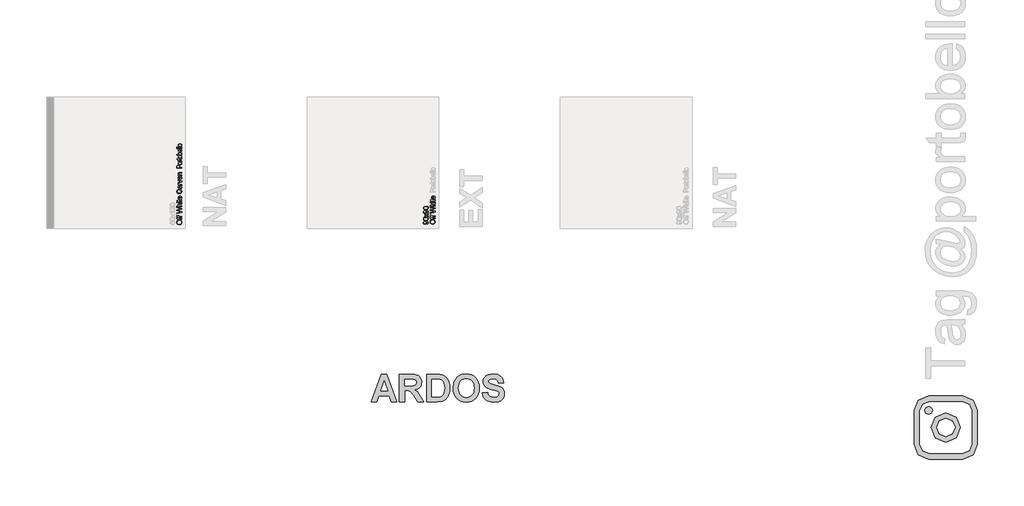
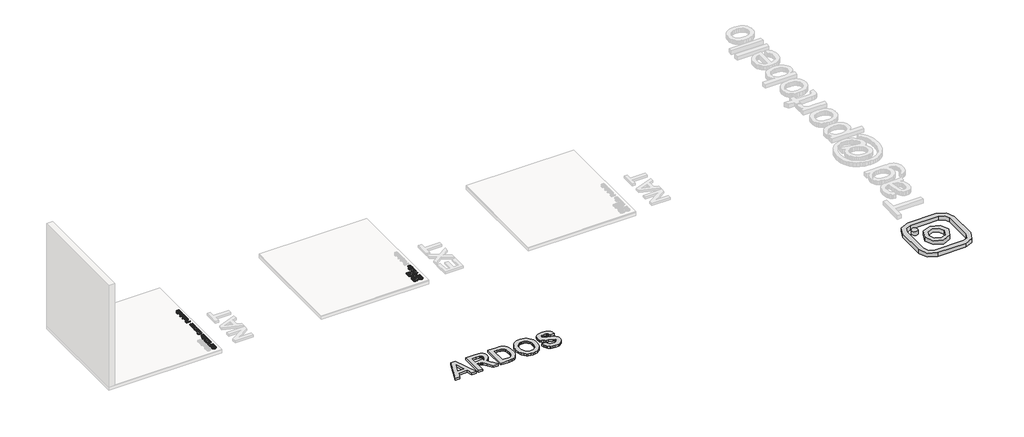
# One storey, part 2 of 12: 6 proxies.
"""IFC4 building model written with IfcOpenShell, lengths in millimetres."""

from ifc_helpers import new_model, si_unit, frame, origin, origin_with_axes, place, context, project, spatial, polyline, outline, extrude, transform, mapped, element, save
from components import generic_models_d67f6705

model = new_model("IFC4")

# Units and contexts
model_context = context("Model", 3, world=origin())
ifc_project = project(units=[si_unit("LENGTHUNIT", "METRE", prefix="MILLI")], contexts=[model_context])

# Site, building, storey
site = spatial("IfcSite", under=ifc_project)
building = spatial("IfcBuilding", under=site)
storey = spatial("IfcBuildingStorey", under=building, Name="PORTOBELLO - SHOWROOM", Elevation=0.0)

# Proxies
placement = place(None, origin())
generic_models_shape = generic_models_d67f6705(model_context)
element("IfcBuildingElementProxy", 1, Name="Blks_Instagram1 : Único", ObjectType="Blks_Instagram1 : Único", at=placement, inside=storey, context=model_context, shape_type="MappedRepresentation", body=[
    mapped(generic_models_shape, transform((-400.4764951, -12631.2406298, 0.0), x_axis=(-1.0, 0.0, 0.0), y_axis=(0.0, -1.0, 0.0), z_axis=(0.0, 0.0, 1.0))),
])
element("IfcBuildingElementProxy", 2, Name="10mm Arial", ObjectType="10mm Arial", at=placement, inside=storey, context=model_context, shape_type="SweptSolid", body=[
    extrude(outline(polyline([(-10933.4831679, -8456.0975392), (-10955.6971091, -8452.749813), (-10972.5031849, -8442.7066346), (-10983.0797922, -8427.3720867), (-10986.605328, -8408.1502525), (-10984.9498591, -8394.9739457), (-10979.9834521, -8383.1588023), (-10972.0555951, -8373.3486157), (-10961.515776, -8366.1871796), (-10948.8728981, -8361.8093838), (-10934.6358649, -8360.3501186), (-10920.2087593, -8361.8860259), (-10907.3880717, -8366.4937479), (-10896.8298585, -8373.9188328), (-10889.1901757, -8383.906829), (-10884.5548626, -8395.6208049), (-10883.0097582, -8408.2238289), (-10884.7173438, -8421.6024708), (-10889.8401006, -8433.4850592), (-10897.9151104, -8443.2707203), (-10908.479455, -8450.3585801), (-10933.4831679, -8456.0975392)]), holes=[polyline([(-10933.3605406, -8443.5405004), (-10917.645848, -8441.0297058), (-10905.6712891, -8433.497322), (-10898.09292, -8422.1757536), (-10895.566797, -8408.2974053), (-10898.1174455, -8394.2167219), (-10905.769391, -8382.8767594), (-10918.1118319, -8375.3995579), (-10934.7339667, -8372.9071573), (-10955.4579858, -8377.1745885), (-10969.1799842, -8389.6457881), (-10974.0482893, -8408.0766761), (-10971.7030415, -8421.5840767), (-10964.6672984, -8433.0681263), (-10952.1501135, -8440.9224069), (-10933.3605406, -8443.5405004)])]), frame((0.0, 0.0, 18.0), z_axis=(0.0, 0.0, 1.0), x_axis=(1.0, 0.0, 0.0)), (0.0, 0.0, 1.0), 20.0),
    extrude(outline(polyline([(-10884.579388, -8300.7041844), (-10945.794952, -8300.7041844), (-10945.794952, -8311.6915934), (-10958.3519908, -8311.6915934), (-10958.3519908, -8300.7041844), (-10965.7832071, -8300.7041844), (-10976.2555812, -8299.3798092), (-10983.7358485, -8292.9541371), (-10986.605328, -8280.2989964), (-10985.2319019, -8268.8456036), (-10973.4596781, -8270.6850136), (-10974.0482893, -8277.9200262), (-10971.9636246, -8285.8294891), (-10964.1890518, -8288.1471457), (-10958.3519908, -8288.1471457), (-10958.3519908, -8274.020477), (-10945.794952, -8274.020477), (-10945.794952, -8288.1471457), (-10884.579388, -8288.1471457), (-10884.579388, -8300.7041844)])), frame((0.0, 0.0, 18.0), z_axis=(0.0, 0.0, 1.0), x_axis=(1.0, 0.0, 0.0)), (0.0, 0.0, 1.0), 20.0),
    extrude(outline(polyline([(-10884.579388, -8341.5145604), (-10945.794952, -8341.5145604), (-10945.794952, -8352.5019693), (-10958.3519908, -8352.5019693), (-10958.3519908, -8341.5145604), (-10965.7832071, -8341.5145604), (-10976.2555812, -8340.1901852), (-10983.7358485, -8333.7645131), (-10986.605328, -8321.1093724), (-10985.2319019, -8309.6559796), (-10973.4596781, -8311.4953896), (-10974.0482893, -8318.7304022), (-10971.9636246, -8326.6398651), (-10964.1890518, -8328.9575217), (-10958.3519908, -8328.9575217), (-10958.3519908, -8314.830853), (-10945.794952, -8314.830853), (-10945.794952, -8328.9575217), (-10884.579388, -8328.9575217), (-10884.579388, -8341.5145604)])), frame((0.0, 0.0, 18.0), z_axis=(0.0, 0.0, 1.0), x_axis=(1.0, 0.0, 0.0)), (0.0, 0.0, 1.0), 20.0),
    extrude(outline(polyline([(-10884.579388, -8204.2455253), (-10985.0356982, -8231.6404712), (-10985.0356982, -8218.691025), (-10919.0131428, -8202.7985228), (-10898.6324803, -8197.8934295), (-10916.658698, -8192.6449797), (-10985.0356982, -8172.730301), (-10985.0356982, -8154.0664212), (-10935.4697307, -8139.596396), (-10898.6324803, -8128.8297163), (-10918.4245316, -8124.0717758), (-10985.0356982, -8108.0566463), (-10985.0356982, -8095.0826746), (-10884.579388, -8122.453095), (-10884.579388, -8135.8930506), (-10962.0798617, -8160.001584), (-10972.8955923, -8163.3615729), (-10959.8725697, -8167.1384947), (-10884.579388, -8189.0887871), (-10884.579388, -8204.2455253)])), frame((0.0, 0.0, 18.0), z_axis=(0.0, 0.0, 1.0), x_axis=(1.0, 0.0, 0.0)), (0.0, 0.0, 1.0), 20.0),
    extrude(outline(polyline([(-10884.579388, -8084.0952657), (-10985.0356982, -8084.0952657), (-10985.0356982, -8071.5382269), (-10948.1003459, -8071.5382269), (-10956.966302, -8061.7464345), (-10959.9216207, -8049.6860364), (-10956.6965218, -8035.5838932), (-10947.7815148, -8027.0245055), (-10931.275876, -8024.4493315), (-10884.579388, -8024.4493315), (-10884.579388, -8037.0063703), (-10929.9760262, -8037.0063703), (-10943.2197781, -8041.0040213), (-10947.3645819, -8052.3347868), (-10944.5686787, -8062.6232199), (-10936.9903096, -8069.4903505), (-10923.7710833, -8071.5382269), (-10884.579388, -8071.5382269), (-10884.579388, -8084.0952657)])), frame((0.0, 0.0, 18.0), z_axis=(0.0, 0.0, 1.0), x_axis=(1.0, 0.0, 0.0)), (0.0, 0.0, 1.0), 20.0),
    extrude(outline(polyline([(-10972.4786594, -8007.1834032), (-10985.0356982, -8007.1834032), (-10985.0356982, -7994.6263644), (-10972.4786594, -7994.6263644), (-10972.4786594, -8007.1834032)])), frame((0.0, 0.0, 18.0), z_axis=(0.0, 0.0, 1.0), x_axis=(1.0, 0.0, 0.0)), (0.0, 0.0, 1.0), 20.0),
    extrude(outline(polyline([(-10884.579388, -8007.1834032), (-10958.3519908, -8007.1834032), (-10958.3519908, -7994.6263644), (-10884.579388, -7994.6263644), (-10884.579388, -8007.1834032)])), frame((0.0, 0.0, 18.0), z_axis=(0.0, 0.0, 1.0), x_axis=(1.0, 0.0, 0.0)), (0.0, 0.0, 1.0), 20.0),
    extrude(outline(polyline([(-10895.0517622, -7949.1070989), (-10884.211506, -7947.5374691), (-10883.0097582, -7956.9307227), (-10885.0944228, -7967.4521477), (-10890.5636018, -7972.7005975), (-10904.8128978, -7974.2211764), (-10945.794952, -7974.2211764), (-10945.794952, -7983.6389555), (-10958.3519908, -7983.6389555), (-10958.3519908, -7974.2211764), (-10976.2801067, -7974.2211764), (-10983.6622721, -7961.6641377), (-10958.3519908, -7961.6641377), (-10958.3519908, -7949.1070989), (-10945.794952, -7949.1070989), (-10945.794952, -7961.6641377), (-10905.1807798, -7961.6641377), (-10898.7060567, -7961.0019501), (-10896.4129256, -7958.8559718), (-10895.566797, -7954.5762779), (-10895.0517622, -7949.1070989)])), frame((0.0, 0.0, 18.0), z_axis=(0.0, 0.0, 1.0), x_axis=(1.0, 0.0, 0.0)), (0.0, 0.0, 1.0), 20.0),
    extrude(outline(polyline([(-10906.5542059, -7884.899428), (-10904.984576, -7872.5876439), (-10895.7078184, -7877.0236876), (-10888.7732428, -7884.1023504), (-10884.4506293, -7893.6642165), (-10883.0097582, -7905.5498707), (-10885.4960273, -7920.2835446), (-10892.9548348, -7931.6204414), (-10904.9018026, -7938.8493226), (-10920.8525528, -7941.2589497), (-10937.3397975, -7938.8247971), (-10949.6699757, -7931.5223395), (-10957.3587094, -7920.3387269), (-10959.9216207, -7906.2611092), (-10957.3648408, -7892.6218842), (-10949.6945012, -7881.7233801), (-10937.3888484, -7874.5772724), (-10920.9261292, -7872.1952364), (-10917.5416148, -7872.2688128), (-10917.5416148, -7928.7019109), (-10908.1422298, -7926.5283415), (-10901.2321797, -7921.4791611), (-10896.9831426, -7914.1920319), (-10895.566797, -7905.304616), (-10898.1910219, -7892.9928319), (-10906.5542059, -7884.899428)]), holes=[polyline([(-10930.0986536, -7928.7019109), (-10930.0986536, -7884.7522752), (-10941.47847, -7889.7799958), (-10945.8930539, -7897.1008475), (-10947.3645819, -7906.3101601), (-10942.6679551, -7921.7734667), (-10937.1773163, -7926.638706), (-10930.0986536, -7928.7019109)])]), frame((0.0, 0.0, 18.0), z_axis=(0.0, 0.0, 1.0), x_axis=(1.0, 0.0, 0.0)), (0.0, 0.0, 1.0), 20.0),
])
element("IfcBuildingElementProxy", 3, Name="10mm Arial", ObjectType="10mm Arial", at=placement, inside=storey, context=model_context, shape_type="SweptSolid", body=[
    extrude(outline(polyline([(-11049.6934656, -8454.5279093), (-11051.2630954, -8441.9708706), (-11039.2824051, -8436.3300133), (-11035.566797, -8425.63691), (-11037.9580299, -8415.4711042), (-11044.3469139, -8408.5794481), (-11055.2607464, -8404.4714325), (-11069.8288734, -8402.656548), (-11072.2814201, -8402.7301244), (-11062.7655391, -8412.7733029), (-11059.1112447, -8426.5443522), (-11061.3430621, -8437.9946793), (-11068.0385144, -8447.5258887), (-11078.3821298, -8453.9546266), (-11091.5584366, -8456.0975392), (-11105.1700705, -8453.8503933), (-11115.8386483, -8447.1089558), (-11122.7364357, -8436.9830039), (-11125.0356982, -8424.5823149), (-11119.7872484, -8406.6909872), (-11104.8267139, -8394.3792031), (-11076.7205295, -8390.1730857), (-11046.2231121, -8394.3669404), (-11036.2320502, -8399.5816677), (-11028.944921, -8406.83814), (-11024.4935489, -8415.8236578), (-11023.0097582, -8426.2255212), (-11024.7602634, -8436.9615441), (-11030.0117788, -8445.5270632), (-11038.4332108, -8451.5174084), (-11049.6934656, -8454.5279093)]), holes=[polyline([(-11091.8527422, -8402.7301244), (-11100.363079, -8404.0851564), (-11106.9113786, -8408.1502525), (-11111.0868392, -8414.4594287), (-11112.4786594, -8422.5467012), (-11110.9795403, -8430.9344107), (-11106.4821829, -8437.6543885), (-11099.5997239, -8442.0689724), (-11090.9453, -8443.5405004), (-11083.1860556, -8442.1486802), (-11077.0270978, -8437.9732196), (-11073.007987, -8431.4187887), (-11071.6682834, -8422.8900578), (-11077.0270978, -8408.4077699), (-11083.4129161, -8404.1495358), (-11091.8527422, -8402.7301244)])]), frame((0.0, 0.0, 18.0), z_axis=(0.0, 0.0, 1.0), x_axis=(1.0, 0.0, 0.0)), (0.0, 0.0, 1.0), 20.0),
    extrude(outline(polyline([(-11073.9982027, -8379.1856767), (-11102.9014648, -8375.494594), (-11119.5665192, -8364.5317106), (-11125.0356982, -8346.22345), (-11121.7983366, -8331.5572211), (-11112.4663967, -8321.4282035), (-11097.6039641, -8315.5420916), (-11073.9982027, -8313.2612232), (-11045.217568, -8316.9155177), (-11028.5157254, -8327.8416129), (-11024.38625, -8336.0729726), (-11023.0097582, -8346.22345), (-11025.4009912, -8359.2709981), (-11032.5746901, -8369.1792865), (-11049.5647069, -8376.6840792), (-11073.9982027, -8379.1856767)]), holes=[polyline([(-11074.0227282, -8366.628638), (-11054.2705307, -8365.15711), (-11042.8385977, -8360.742526), (-11037.3847472, -8354.1697011), (-11035.566797, -8346.22345), (-11037.3908785, -8338.2771989), (-11042.8631232, -8331.7043739), (-11054.3011876, -8327.2897899), (-11074.0227282, -8325.818262), (-11093.3304016, -8327.240739), (-11104.8512394, -8331.5081702), (-11110.5718044, -8338.0687324), (-11112.4786594, -8346.3706028), (-11110.798665, -8354.2310147), (-11105.7586816, -8360.5463223), (-11093.5204739, -8365.1080591), (-11074.0227282, -8366.628638)])]), frame((0.0, 0.0, 18.0), z_axis=(0.0, 0.0, 1.0), x_axis=(1.0, 0.0, 0.0)), (0.0, 0.0, 1.0), 20.0),
    extrude(outline(polyline([(-11024.579388, -8306.9827038), (-11061.6864186, -8280.1518436), (-11098.3519908, -8305.413074), (-11098.3519908, -8290.3544376), (-11080.6691296, -8278.1652809), (-11072.3549965, -8272.4508472), (-11079.1730761, -8267.496703), (-11098.3519908, -8253.615289), (-11098.3519908, -8238.5076018), (-11061.6618932, -8265.0441564), (-11024.579388, -8239.4886204), (-11024.579388, -8254.5717822), (-11046.8975624, -8269.9737751), (-11050.9933153, -8272.7696783), (-11024.579388, -8291.8750165), (-11024.579388, -8306.9827038)])), frame((0.0, 0.0, 18.0), z_axis=(0.0, 0.0, 1.0), x_axis=(1.0, 0.0, 0.0)), (0.0, 0.0, 1.0), 20.0),
    extrude(outline(polyline([(-11049.6934656, -8230.0708414), (-11051.2630954, -8217.5138026), (-11039.2824051, -8211.8729453), (-11035.566797, -8201.179842), (-11037.9580299, -8191.0140362), (-11044.3469139, -8184.1223802), (-11055.2607464, -8180.0143645), (-11069.8288734, -8178.19948), (-11072.2814201, -8178.2730564), (-11062.7655391, -8188.3162349), (-11059.1112447, -8202.0872843), (-11061.3430621, -8213.5376114), (-11068.0385144, -8223.0688207), (-11078.3821298, -8229.4975586), (-11091.5584366, -8231.6404712), (-11105.1700705, -8229.3933253), (-11115.8386483, -8222.6518878), (-11122.7364357, -8212.5259359), (-11125.0356982, -8200.1252469), (-11119.7872484, -8182.2339192), (-11104.8267139, -8169.9221351), (-11076.7205295, -8165.7160177), (-11046.2231121, -8169.9098724), (-11036.2320502, -8175.1245997), (-11028.944921, -8182.381072), (-11024.4935489, -8191.3665898), (-11023.0097582, -8201.7684532), (-11024.7602634, -8212.5044761), (-11030.0117788, -8221.0699952), (-11038.4332108, -8227.0603404), (-11049.6934656, -8230.0708414)]), holes=[polyline([(-11091.8527422, -8178.2730564), (-11100.363079, -8179.6280884), (-11106.9113786, -8183.6931845), (-11111.0868392, -8190.0023607), (-11112.4786594, -8198.0896332), (-11110.9795403, -8206.4773427), (-11106.4821829, -8213.1973205), (-11099.5997239, -8217.6119045), (-11090.9453, -8219.0834324), (-11083.1860556, -8217.6916122), (-11077.0270978, -8213.5161516), (-11073.007987, -8206.9617207), (-11071.6682834, -8198.4329898), (-11077.0270978, -8183.9507019), (-11083.4129161, -8179.6924678), (-11091.8527422, -8178.2730564)])]), frame((0.0, 0.0, 18.0), z_axis=(0.0, 0.0, 1.0), x_axis=(1.0, 0.0, 0.0)), (0.0, 0.0, 1.0), 20.0),
    extrude(outline(polyline([(-11073.9982027, -8154.7286087), (-11102.9014648, -8151.0375261), (-11119.5665192, -8140.0746426), (-11125.0356982, -8121.766382), (-11121.7983366, -8107.1001531), (-11112.4663967, -8096.9711355), (-11097.6039641, -8091.0850236), (-11073.9982027, -8088.8041552), (-11045.217568, -8092.4584497), (-11028.5157254, -8103.3845449), (-11024.38625, -8111.6159046), (-11023.0097582, -8121.766382), (-11025.4009912, -8134.8139301), (-11032.5746901, -8144.7222185), (-11049.5647069, -8152.2270112), (-11073.9982027, -8154.7286087)]), holes=[polyline([(-11074.0227282, -8142.17157), (-11054.2705307, -8140.700042), (-11042.8385977, -8136.2854581), (-11037.3847472, -8129.7126331), (-11035.566797, -8121.766382), (-11037.3908785, -8113.8201309), (-11042.8631232, -8107.2473059), (-11054.3011876, -8102.832722), (-11074.0227282, -8101.361194), (-11093.3304016, -8102.783671), (-11104.8512394, -8107.0511022), (-11110.5718044, -8113.6116644), (-11112.4786594, -8121.9135348), (-11110.798665, -8129.7739467), (-11105.7586816, -8136.0892543), (-11093.5204739, -8140.6509911), (-11074.0227282, -8142.17157)])]), frame((0.0, 0.0, 18.0), z_axis=(0.0, 0.0, 1.0), x_axis=(1.0, 0.0, 0.0)), (0.0, 0.0, 1.0), 20.0),
])
element("IfcBuildingElementProxy", 4, Name="10mm Arial", ObjectType="10mm Arial", at=placement, inside=storey, context=model_context, shape_type="SweptSolid", body=[
    extrude(outline(polyline([(-16134.5237265, -8462.0790039), (-16156.7376676, -8458.7312777), (-16173.5437435, -8448.6880993), (-16184.1203508, -8433.3535514), (-16187.6458866, -8414.1317172), (-16185.9904176, -8400.9554104), (-16181.0240107, -8389.140267), (-16173.0961537, -8379.3300804), (-16162.5563345, -8372.1686443), (-16149.9134566, -8367.7908485), (-16135.6764234, -8366.3315833), (-16121.2493178, -8367.8674906), (-16108.4286303, -8372.4752126), (-16097.8704171, -8379.9002975), (-16090.2307343, -8389.8882937), (-16085.5954211, -8401.6022696), (-16084.0503168, -8414.2052936), (-16085.7579024, -8427.5839355), (-16090.8806591, -8439.4665239), (-16098.9556689, -8449.252185), (-16109.5200136, -8456.3400448), (-16134.5237265, -8462.0790039)]), holes=[polyline([(-16134.4010992, -8449.5219651), (-16118.6864066, -8447.0111705), (-16106.7118477, -8439.4787867), (-16099.1334786, -8428.1572183), (-16096.6073555, -8414.27887), (-16099.158004, -8400.1981866), (-16106.8099495, -8388.8582241), (-16119.1523905, -8381.3810226), (-16135.7745253, -8378.8886221), (-16156.4985444, -8383.1560532), (-16170.2205428, -8395.6272528), (-16175.0888478, -8414.0581408), (-16172.7436001, -8427.5655414), (-16165.707857, -8439.049591), (-16153.1906721, -8446.9038716), (-16134.4010992, -8449.5219651)])]), origin_with_axes(), (0.0, 0.0, 1.0), 20.0),
    extrude(outline(polyline([(-16085.6199466, -8306.6856491), (-16146.8355106, -8306.6856491), (-16146.8355106, -8317.6730581), (-16159.3925494, -8317.6730581), (-16159.3925494, -8306.6856491), (-16166.8237657, -8306.6856491), (-16177.2961398, -8305.3612739), (-16184.776407, -8298.9356018), (-16187.6458866, -8286.2804611), (-16186.2724605, -8274.8270683), (-16174.5002366, -8276.6664783), (-16175.0888478, -8283.9014909), (-16173.0041832, -8291.8109538), (-16165.2296104, -8294.1286104), (-16159.3925494, -8294.1286104), (-16159.3925494, -8280.0019417), (-16146.8355106, -8280.0019417), (-16146.8355106, -8294.1286104), (-16085.6199466, -8294.1286104), (-16085.6199466, -8306.6856491)])), origin_with_axes(), (0.0, 0.0, 1.0), 20.0),
    extrude(outline(polyline([(-16085.6199466, -8347.4960251), (-16146.8355106, -8347.4960251), (-16146.8355106, -8358.4834341), (-16159.3925494, -8358.4834341), (-16159.3925494, -8347.4960251), (-16166.8237657, -8347.4960251), (-16177.2961398, -8346.1716499), (-16184.776407, -8339.7459778), (-16187.6458866, -8327.0908371), (-16186.2724605, -8315.6374443), (-16174.5002366, -8317.4768543), (-16175.0888478, -8324.7118669), (-16173.0041832, -8332.6213298), (-16165.2296104, -8334.9389864), (-16159.3925494, -8334.9389864), (-16159.3925494, -8320.8123177), (-16146.8355106, -8320.8123177), (-16146.8355106, -8334.9389864), (-16085.6199466, -8334.9389864), (-16085.6199466, -8347.4960251)])), origin_with_axes(), (0.0, 0.0, 1.0), 20.0),
    extrude(outline(polyline([(-16085.6199466, -8210.22699), (-16186.0762568, -8237.6219359), (-16186.0762568, -8224.6724897), (-16120.0537014, -8208.7799875), (-16099.6730388, -8203.8748942), (-16117.6992566, -8198.6264444), (-16186.0762568, -8178.7117657), (-16186.0762568, -8160.0478859), (-16136.5102893, -8145.5778607), (-16099.6730388, -8134.811181), (-16119.4650902, -8130.0532405), (-16186.0762568, -8114.038111), (-16186.0762568, -8101.0641393), (-16085.6199466, -8128.4345597), (-16085.6199466, -8141.8745153), (-16163.1204203, -8165.9830487), (-16173.9361509, -8169.3430376), (-16160.9131283, -8173.1199594), (-16085.6199466, -8195.0702518), (-16085.6199466, -8210.22699)])), origin_with_axes(), (0.0, 0.0, 1.0), 20.0),
    extrude(outline(polyline([(-16085.6199466, -8090.0767304), (-16186.0762568, -8090.0767304), (-16186.0762568, -8077.5196916), (-16149.1409044, -8077.5196916), (-16158.0068605, -8067.7278992), (-16160.9621792, -8055.6675011), (-16157.7370804, -8041.5653579), (-16148.8220734, -8033.0059702), (-16132.3164345, -8030.4307962), (-16085.6199466, -8030.4307962), (-16085.6199466, -8042.987835), (-16131.0165848, -8042.987835), (-16144.2603366, -8046.985486), (-16148.4051405, -8058.3162515), (-16145.6092373, -8068.6046846), (-16138.0308682, -8075.4718152), (-16124.8116418, -8077.5196916), (-16085.6199466, -8077.5196916), (-16085.6199466, -8090.0767304)])), origin_with_axes(), (0.0, 0.0, 1.0), 20.0),
    extrude(outline(polyline([(-16173.519218, -8013.1648679), (-16186.0762568, -8013.1648679), (-16186.0762568, -8000.6078291), (-16173.519218, -8000.6078291), (-16173.519218, -8013.1648679)])), origin_with_axes(), (0.0, 0.0, 1.0), 20.0),
    extrude(outline(polyline([(-16085.6199466, -8013.1648679), (-16159.3925494, -8013.1648679), (-16159.3925494, -8000.6078291), (-16085.6199466, -8000.6078291), (-16085.6199466, -8013.1648679)])), origin_with_axes(), (0.0, 0.0, 1.0), 20.0),
    extrude(outline(polyline([(-16096.0923207, -7955.0885636), (-16085.2520646, -7953.5189338), (-16084.0503168, -7962.9121874), (-16086.1349814, -7973.4336124), (-16091.6041604, -7978.6820622), (-16105.8534563, -7980.2026411), (-16146.8355106, -7980.2026411), (-16146.8355106, -7989.6204202), (-16159.3925494, -7989.6204202), (-16159.3925494, -7980.2026411), (-16177.3206653, -7980.2026411), (-16184.7028306, -7967.6456024), (-16159.3925494, -7967.6456024), (-16159.3925494, -7955.0885636), (-16146.8355106, -7955.0885636), (-16146.8355106, -7967.6456024), (-16106.2213383, -7967.6456024), (-16099.7466152, -7966.9834148), (-16097.4534841, -7964.8374365), (-16096.6073555, -7960.5577426), (-16096.0923207, -7955.0885636)])), origin_with_axes(), (0.0, 0.0, 1.0), 20.0),
    extrude(outline(polyline([(-16107.5947645, -7890.8808927), (-16106.0251346, -7878.5691086), (-16096.748377, -7883.0051523), (-16089.8138014, -7890.0838151), (-16085.4911879, -7899.6456813), (-16084.0503168, -7911.5313354), (-16086.5365859, -7926.2650093), (-16093.9953934, -7937.6019061), (-16105.9423612, -7944.8307873), (-16121.8931113, -7947.2404144), (-16138.3803561, -7944.8062618), (-16150.7105343, -7937.5038042), (-16158.399268, -7926.3201916), (-16160.9621792, -7912.2425739), (-16158.4053994, -7898.6033489), (-16150.7350598, -7887.7048448), (-16138.429407, -7880.5587371), (-16121.9666877, -7878.1767011), (-16118.5821734, -7878.2502775), (-16118.5821734, -7934.6833756), (-16109.1827884, -7932.5098062), (-16102.2727383, -7927.4606258), (-16098.0237012, -7920.1734966), (-16096.6073555, -7911.2860807), (-16099.2315804, -7898.9742966), (-16107.5947645, -7890.8808927)]), holes=[polyline([(-16131.1392121, -7934.6833756), (-16131.1392121, -7890.7337399), (-16142.5190285, -7895.7614605), (-16146.9336125, -7903.0823122), (-16148.4051405, -7912.2916248), (-16143.7085137, -7927.7549314), (-16138.2178749, -7932.6201708), (-16131.1392121, -7934.6833756)])]), origin_with_axes(), (0.0, 0.0, 1.0), 20.0),
    extrude(outline(polyline([(-16121.3290256, -7754.1759433), (-16118.0916641, -7741.6189045), (-16103.4591577, -7747.413046), (-16092.7691201, -7756.5058626), (-16086.2300176, -7768.4497647), (-16084.0503168, -7782.7971625), (-16085.6996544, -7797.3622239), (-16090.6476672, -7808.9290469), (-16098.722677, -7817.795003), (-16109.7530055, -7824.2574634), (-16136.6083911, -7829.5181759), (-16151.2562259, -7828.0313195), (-16163.9052352, -7823.5707503), (-16174.1538144, -7816.3694603), (-16181.6003592, -7806.6604413), (-16186.1345047, -7795.1457348), (-16187.6458866, -7782.5273824), (-16185.6899807, -7768.7593987), (-16179.8222628, -7757.3765167), (-16170.4044838, -7748.7343555), (-16157.7983941, -7743.1885344), (-16154.8062872, -7755.7455732), (-16170.2450682, -7766.046269), (-16175.0888478, -7783.0178917), (-16169.7177707, -7802.6627903), (-16155.2967965, -7813.7605638), (-16136.6329166, -7816.9611372), (-16115.0014553, -7813.1719526), (-16101.181355, -7801.3752033), (-16096.6073555, -7784.0479613), (-16098.1647226, -7773.5663901), (-16102.836824, -7764.8322584), (-16110.5746086, -7758.2379737), (-16121.3290256, -7754.1759433)])), origin_with_axes(), (0.0, 0.0, 1.0), 20.0),
    extrude(outline(polyline([(-16095.0377257, -7678.8337107), (-16086.5273889, -7691.0106047), (-16084.0503168, -7704.462823), (-16085.5402388, -7714.9566569), (-16090.0100051, -7722.6975073), (-16096.7974279, -7727.4707761), (-16105.2403197, -7729.0618658), (-16115.1731336, -7726.6583701), (-16122.3836207, -7720.3430625), (-16126.503899, -7711.5506828), (-16128.3923599, -7700.6859012), (-16132.708842, -7678.9072871), (-16135.5047452, -7678.8337107), (-16144.7753714, -7682.2918015), (-16148.4051405, -7696.1732154), (-16145.989382, -7708.877407), (-16137.4177315, -7714.9351972), (-16138.9873614, -7727.4922359), (-16151.2500946, -7722.0598451), (-16158.4360562, -7711.1214871), (-16160.9621792, -7694.5545346), (-16158.7303618, -7679.3364828), (-16153.1262927, -7670.7403068), (-16144.6036932, -7666.8898086), (-16133.6162843, -7666.2766719), (-16117.9935622, -7666.2766719), (-16096.1781599, -7665.6390098), (-16085.6199466, -7663.1374122), (-16085.6199466, -7675.694451), (-16095.0377257, -7678.8337107)]), holes=[polyline([(-16120.1518032, -7678.8337107), (-16116.301305, -7699.0917459), (-16114.2656913, -7709.8952138), (-16110.9547533, -7714.7880444), (-16106.1232365, -7716.504827), (-16099.3296823, -7712.7646934), (-16096.6073555, -7701.7895472), (-16099.6117252, -7689.0853556), (-16106.8835259, -7680.8938499), (-16116.5956106, -7678.9072871), (-16120.1518032, -7678.8337107)])]), origin_with_axes(), (0.0, 0.0, 1.0), 20.0),
    extrude(outline(polyline([(-16085.6199466, -7583.7730031), (-16159.3925494, -7609.7699975), (-16159.3925494, -7596.5017202), (-16115.197659, -7580.7563708), (-16100.3352264, -7576.0229558), (-16114.3637932, -7571.3876426), (-16159.3925494, -7555.5687168), (-16159.3925494, -7542.2759141), (-16085.6199466, -7567.9050264), (-16085.6199466, -7583.7730031)])), origin_with_axes(), (0.0, 0.0, 1.0), 20.0),
    extrude(outline(polyline([(-16085.6199466, -7649.0107436), (-16159.3925494, -7649.0107436), (-16159.3925494, -7638.0233347), (-16148.4787169, -7638.0233347), (-16158.5341581, -7630.2242364), (-16160.9621792, -7622.3760872), (-16157.0871555, -7609.7699975), (-16145.8299665, -7613.9638522), (-16148.4051405, -7622.7930201), (-16145.9280684, -7629.8931426), (-16139.0609378, -7634.4180911), (-16124.3947089, -7636.4537049), (-16085.6199466, -7636.4537049), (-16085.6199466, -7649.0107436)])), origin_with_axes(), (0.0, 0.0, 1.0), 20.0),
    extrude(outline(polyline([(-16107.5947645, -7479.637873), (-16106.0251346, -7467.3260889), (-16096.748377, -7471.7621327), (-16089.8138014, -7478.8407954), (-16085.4911879, -7488.4026616), (-16084.0503168, -7500.2883157), (-16086.5365859, -7515.0219896), (-16093.9953934, -7526.3588864), (-16105.9423612, -7533.5877676), (-16121.8931113, -7535.9973947), (-16138.3803561, -7533.5632422), (-16150.7105343, -7526.2607846), (-16158.399268, -7515.0771719), (-16160.9621792, -7500.9995542), (-16158.4053994, -7487.3603293), (-16150.7350598, -7476.4618251), (-16138.429407, -7469.3157174), (-16121.9666877, -7466.9336815), (-16118.5821734, -7467.0072579), (-16118.5821734, -7523.4403559), (-16109.1827884, -7521.2667865), (-16102.2727383, -7516.2176061), (-16098.0237012, -7508.9304769), (-16096.6073555, -7500.043061), (-16099.2315804, -7487.7312769), (-16107.5947645, -7479.637873)]), holes=[polyline([(-16131.1392121, -7523.4403559), (-16131.1392121, -7479.4907202), (-16142.5190285, -7484.5184408), (-16146.9336125, -7491.8392925), (-16148.4051405, -7501.0486052), (-16143.7085137, -7516.5119117), (-16138.2178749, -7521.3771511), (-16131.1392121, -7523.4403559)])]), origin_with_axes(), (0.0, 0.0, 1.0), 20.0),
    extrude(outline(polyline([(-16085.6199466, -7454.3766427), (-16159.3925494, -7454.3766427), (-16159.3925494, -7441.8196039), (-16149.0918535, -7441.8196039), (-16157.9945978, -7432.2178839), (-16160.9621792, -7419.1090221), (-16158.5709463, -7407.2509591), (-16152.2924269, -7399.1575552), (-16143.0585888, -7395.3928961), (-16130.918483, -7394.7307086), (-16085.6199466, -7394.7307086), (-16085.6199466, -7407.2877473), (-16129.2262258, -7407.2877473), (-16140.336262, -7408.7347498), (-16146.2101112, -7413.8483096), (-16148.4051405, -7422.469011), (-16143.4755217, -7436.0929075), (-16136.3324796, -7440.3879298), (-16124.7625909, -7441.8196039), (-16085.6199466, -7441.8196039), (-16085.6199466, -7454.3766427)])), origin_with_axes(), (0.0, 0.0, 1.0), 20.0),
])
element("IfcBuildingElementProxy", 5, Name="10mm Arial Narrow", ObjectType="10mm Arial Narrow", at=placement, inside=storey, context=model_context, shape_type="SweptSolid", body=[
    extrude(outline(polyline([(-16085.6199466, -7305.0562147), (-16186.3385504, -7305.0562147), (-16186.3385504, -7273.75933), (-16184.4602296, -7257.4636285), (-16174.9797865, -7245.9906424), (-16157.9606776, -7241.700964), (-16145.8848521, -7243.4872724), (-16136.2584583, -7248.8461976), (-16129.9571999, -7258.5899864), (-16127.8567804, -7273.5308856), (-16127.8567804, -7295.3092531), (-16085.6199466, -7295.3092531), (-16085.6199466, -7305.0562147)]), holes=[polyline([(-16139.2282357, -7295.3092531), (-16139.2282357, -7272.3378981), (-16143.7590499, -7256.4737027), (-16157.4276407, -7251.4479256), (-16167.5934171, -7253.9227401), (-16173.3933669, -7259.9003689), (-16174.9670951, -7272.5663425), (-16174.9670951, -7295.3092531), (-16139.2282357, -7295.3092531)])]), origin_with_axes(), (0.0, 0.0, 1.0), 20.0),
    extrude(outline(polyline([(-16122.1710528, -7233.5784959), (-16138.7618284, -7231.6240271), (-16150.7139132, -7225.7606204), (-16157.9384678, -7216.9020537), (-16160.3466526, -7205.9621046), (-16157.9384678, -7195.149069), (-16150.7139132, -7186.2651196), (-16138.9521987, -7180.3255648), (-16122.9325342, -7178.3457132), (-16105.7706476, -7180.2906636), (-16093.6281925, -7186.1255147), (-16086.4036379, -7194.9745629), (-16083.995453, -7205.9621046), (-16086.4099835, -7216.8227328), (-16093.6535752, -7225.6971637), (-16105.6120057, -7231.6081629), (-16122.1710528, -7233.5784959)]), holes=[polyline([(-16122.1964355, -7223.8315343), (-16109.6446841, -7222.5274974), (-16100.7734261, -7218.6153868), (-16095.5001675, -7212.7741901), (-16093.7424147, -7205.6828947), (-16095.5160317, -7198.9628216), (-16100.8368828, -7193.2707483), (-16109.7240051, -7189.3871932), (-16122.1964355, -7188.0926749), (-16134.7101129, -7189.3967117), (-16143.5686796, -7193.3088223), (-16148.8419381, -7199.1500191), (-16150.599691, -7206.2413144), (-16148.8324196, -7213.0089802), (-16143.5306055, -7218.691535), (-16134.6625203, -7222.5465345), (-16122.1964355, -7223.8315343)])]), origin_with_axes(), (0.0, 0.0, 1.0), 20.0),
    extrude(outline(polyline([(-16093.7424147, -7106.8679944), (-16083.995453, -7105.2435008), (-16083.995453, -7112.6044875), (-16086.1149095, -7120.8792518), (-16091.9148593, -7125.194313), (-16106.5606845, -7126.3619177), (-16148.9751974, -7126.3619177), (-16148.9751974, -7134.4843858), (-16152.2241846, -7134.4843858), (-16147.3507038, -7136.1088794), (-16148.9751974, -7143.6729278), (-16146.6526792, -7149.7520874), (-16140.1673961, -7153.6229511), (-16124.7600895, -7155.6028027), (-16085.6199466, -7155.6028027), (-16085.6199466, -7165.3497644), (-16158.722159, -7165.3497644), (-16158.722159, -7155.6028027), (-16149.0259628, -7155.6028027), (-16158.1129739, -7149.3586554), (-16160.3466526, -7142.9622118), (-16158.722159, -7134.4843858), (-16158.722159, -7126.3619177), (-16174.9670951, -7126.3619177), (-16183.0895631, -7116.6149561), (-16158.722159, -7116.6149561), (-16158.722159, -7106.8679944), (-16148.9751974, -7106.8679944), (-16148.9751974, -7116.6149561), (-16104.3270058, -7116.6149561), (-16096.3314513, -7115.7519439), (-16093.7424147, -7111.1322902), (-16093.7424147, -7106.8679944)])), origin_with_axes(), (0.0, 0.0, 1.0), 20.0),
    extrude(outline(polyline([(-16122.1710528, -7100.37002), (-16138.7618284, -7098.4155511), (-16150.7139132, -7092.5521445), (-16157.9384678, -7083.6935778), (-16160.3466526, -7072.7536287), (-16157.9384678, -7061.9405931), (-16150.7139132, -7053.0566436), (-16138.9521987, -7047.1170889), (-16122.9325342, -7045.1372373), (-16105.7706476, -7047.0821877), (-16093.6281925, -7052.9170387), (-16086.4036379, -7061.7660869), (-16083.995453, -7072.7536287), (-16086.4099835, -7083.6142568), (-16093.6535752, -7092.4886877), (-16105.6120057, -7098.3996869), (-16122.1710528, -7100.37002)]), holes=[polyline([(-16122.1964355, -7090.6230584), (-16109.6446841, -7089.3190215), (-16100.7734261, -7085.4069109), (-16095.5001675, -7079.5657142), (-16093.7424147, -7072.4744188), (-16095.5160317, -7065.7543456), (-16100.8368828, -7060.0622723), (-16109.7240051, -7056.1787173), (-16122.1964355, -7054.884199), (-16134.7101129, -7056.1882358), (-16143.5686796, -7060.1003464), (-16148.8419381, -7065.9415431), (-16150.599691, -7073.0328385), (-16148.8324196, -7079.8005042), (-16143.5306055, -7085.483059), (-16134.6625203, -7089.3380585), (-16122.1964355, -7090.6230584)])]), origin_with_axes(), (0.0, 0.0, 1.0), 20.0),
    extrude(outline(polyline([(-16085.6199466, -7022.3943268), (-16085.6199466, -7032.1412884), (-16186.3385504, -7032.1412884), (-16186.3385504, -7022.3943268), (-16150.9296662, -7022.3943268), (-16158.0114431, -7014.995266), (-16160.3466526, -7005.7940327), (-16156.1458137, -6992.912306), (-16143.4163833, -6983.6349246), (-16122.7294725, -6980.1574929), (-16106.275129, -6982.0897519), (-16094.0723899, -6987.8865289), (-16086.5146872, -6996.2596513), (-16083.995453, -7005.9209463), (-16086.6098724, -7015.2617845), (-16094.3769825, -7022.3943268), (-16085.6199466, -7022.3943268)]), holes=[polyline([(-16122.7294725, -7022.3943268), (-16105.4819193, -7020.3129443), (-16096.7502661, -7014.424155), (-16093.7424147, -7005.9717117), (-16095.5318959, -7000.0289841), (-16100.9003396, -6994.7906268), (-16122.3233491, -6989.9044546), (-16143.7590499, -6994.6129478), (-16148.8895307, -6999.8576508), (-16150.599691, -7006.1747734), (-16148.8102097, -7012.1524022), (-16143.441766, -7017.4446978), (-16122.7294725, -7022.3943268)])]), origin_with_axes(), (0.0, 0.0, 1.0), 20.0),
    extrude(outline(polyline([(-16108.3628571, -6928.1736975), (-16106.7383635, -6918.4267358), (-16096.851797, -6922.1262662), (-16089.7319461, -6927.945253), (-16085.4295763, -6935.6489063), (-16083.995453, -6945.0024359), (-16086.4099835, -6956.5959899), (-16093.6535752, -6965.7401122), (-16105.4597094, -6971.6796669), (-16121.5618677, -6973.6595185), (-16138.2287914, -6971.6701484), (-16150.4093206, -6965.7020381), (-16157.8623196, -6956.6880023), (-16160.3466526, -6945.5608556), (-16157.9479863, -6934.8779064), (-16150.7519872, -6926.1303891), (-16139.0124826, -6920.295538), (-16122.9832996, -6918.3505877), (-16119.7343124, -6918.4267358), (-16119.7343124, -6963.9125569), (-16100.2911545, -6957.9095453), (-16095.3795996, -6951.9795091), (-16093.7424147, -6944.8755224), (-16097.3975253, -6934.6970546), (-16108.3628571, -6928.1736975)]), holes=[polyline([(-16129.4812741, -6963.2526063), (-16129.4812741, -6928.1736975), (-16143.7463586, -6932.4379932), (-16148.8863579, -6938.2633257), (-16150.599691, -6945.4847075), (-16144.8885806, -6957.6937923), (-16129.4812741, -6963.2526063)])]), origin_with_axes(), (0.0, 0.0, 1.0), 20.0),
    extrude(outline(polyline([(-16085.6199466, -6905.4307869), (-16186.3385504, -6905.4307869), (-16186.3385504, -6895.6838253), (-16085.6199466, -6895.6838253), (-16085.6199466, -6905.4307869)])), origin_with_axes(), (0.0, 0.0, 1.0), 20.0),
    extrude(outline(polyline([(-16085.6199466, -6879.4388892), (-16186.3385504, -6879.4388892), (-16186.3385504, -6869.6919275), (-16085.6199466, -6869.6919275), (-16085.6199466, -6879.4388892)])), origin_with_axes(), (0.0, 0.0, 1.0), 20.0),
    extrude(outline(polyline([(-16122.1710528, -6858.3204723), (-16138.7618284, -6856.3660034), (-16150.7139132, -6850.5025968), (-16157.9384678, -6841.6440301), (-16160.3466526, -6830.7040809), (-16157.9384678, -6819.8910453), (-16150.7139132, -6811.0070959), (-16138.9521987, -6805.0675412), (-16122.9325342, -6803.0876896), (-16105.7706476, -6805.0326399), (-16093.6281925, -6810.867491), (-16086.4036379, -6819.7165392), (-16083.995453, -6830.7040809), (-16086.4099835, -6841.5647091), (-16093.6535752, -6850.43914), (-16105.6120057, -6856.3501392), (-16122.1710528, -6858.3204723)]), holes=[polyline([(-16122.1964355, -6848.5735106), (-16109.6446841, -6847.2694738), (-16100.7734261, -6843.3573632), (-16095.5001675, -6837.5161664), (-16093.7424147, -6830.4248711), (-16095.5160317, -6823.7047979), (-16100.8368828, -6818.0127246), (-16109.7240051, -6814.1291696), (-16122.1964355, -6812.8346512), (-16134.7101129, -6814.1386881), (-16143.5686796, -6818.0507987), (-16148.8419381, -6823.8919954), (-16150.599691, -6830.9832908), (-16148.8324196, -6837.7509565), (-16143.5306055, -6843.4335113), (-16134.6625203, -6847.2885108), (-16122.1964355, -6848.5735106)])]), origin_with_axes(), (0.0, 0.0, 1.0), 20.0),
])
element("IfcBuildingElementProxy", 6, Name="550mm Arial", ObjectType="550mm Arial", at=placement, inside=storey, context=model_context, shape_type="SweptSolid", body=[
    extrude(outline(polyline([(-11669.0480039, -12102.6873012), (-11781.3600413, -12102.6873012), (-11825.3384847, -11977.9889301), (-12037.1587088, -11977.9889301), (-12080.580463, -12102.6873012), (-12194.5625679, -12102.6873012), (-11989.9793028, -11541.5446312), (-11875.8580256, -11541.5446312), (-11669.0480039, -12102.6873012)]), holes=[polyline([(-11859.5748678, -11880.0116385), (-11931.8052859, -11675.1500288), (-12003.061498, -11880.0116385), (-11859.5748678, -11880.0116385)])]), origin_with_axes(), (0.0, 0.0, 1.0), 50.0),
    extrude(outline(polyline([(-11615.6058449, -12102.6873012), (-11615.6058449, -11541.5446312), (-11379.5696424, -11541.5446312), (-11302.6769526, -11545.3370761), (-11250.1394135, -11556.7144107), (-11230.9684306, -11565.7780061), (-11213.815446, -11577.7990125), (-11198.6804596, -11592.7774302), (-11185.5634713, -11610.7132589), (-11174.9689808, -11630.832353), (-11167.4014876, -11652.3605665), (-11162.8609916, -11675.2978994), (-11161.347493, -11699.6443517), (-11163.5351074, -11729.992609), (-11170.0979507, -11757.5748171), (-11181.0360228, -11782.3909759), (-11196.3493237, -11804.4410855), (-11216.020457, -11823.1945514), (-11240.032026, -11838.1207795), (-11268.3840308, -11849.2197695), (-11301.0764713, -11856.4915216), (-11270.0758439, -11878.828674), (-11244.9900388, -11903.2534108), (-11219.0344069, -11938.6379653), (-11185.424299, -11993.8545711), (-11116.8123604, -12102.6873012), (-11241.6499038, -12102.6873012), (-11322.9265207, -11974.5096229), (-11386.7370153, -11898.4519668), (-11404.4466891, -11885.2479959), (-11423.2001551, -11876.9498481), (-11448.0945983, -11872.565921), (-11484.2272039, -11871.104612), (-11508.7215268, -11871.104612), (-11508.7215268, -12102.6873012), (-11615.6058449, -12102.6873012)]), holes=[polyline([(-11508.7215268, -11773.1273204), (-11420.6254677, -11773.1273204), (-11351.0915127, -11771.5094426), (-11313.6715635, -11766.655809), (-11294.6397529, -11757.8531617), (-11280.2702141, -11744.3882427), (-11271.2414118, -11726.6263793), (-11268.2318111, -11704.9328987), (-11272.1982213, -11680.9082823), (-11284.097452, -11661.9982475), (-11303.2336418, -11648.6551043), (-11328.9109292, -11641.3311626), (-11415.7544376, -11639.5219228), (-11508.7215268, -11639.5219228), (-11508.7215268, -11773.1273204)])]), origin_with_axes(), (0.0, 0.0, 1.0), 50.0),
    extrude(outline(polyline([(-11054.4631749, -11541.5446312), (-10846.6789471, -11541.5446312), (-10784.7472785, -11544.2236978), (-10739.5162845, -11552.2608975), (-10715.6308403, -11560.972213), (-10693.5198429, -11572.493069), (-10673.1832921, -11586.8234657), (-10654.6211881, -11603.9634029), (-10623.4987849, -11645.2279867), (-10600.8310983, -11694.8429077), (-10587.0008521, -11754.9131471), (-10582.39077, -11827.5436855), (-10586.705111, -11891.9804554), (-10599.6481339, -11946.9535096), (-10611.3560027, -11976.1101042), (-10625.3254212, -12002.3440807), (-10641.5563894, -12025.6554391), (-10660.0489074, -12046.0441795), (-10694.7723935, -12071.5822946), (-10739.9338013, -12090.8576566), (-10783.8774517, -12099.72989), (-10840.5553664, -12102.6873012), (-11054.4631749, -12102.6873012), (-11054.4631749, -11541.5446312)]), holes=[polyline([(-10947.5788568, -11639.5219228), (-10947.5788568, -12004.7100096), (-10856.5601797, -12004.7100096), (-10812.5817363, -12003.3878729), (-10782.7988664, -11999.4214626), (-10755.6776666, -11990.3578673), (-10733.6014622, -11976.5276211), (-10715.8395988, -11955.1124851), (-10701.6614218, -11923.2942204), (-10692.3716715, -11879.5245355), (-10689.2750881, -11822.2551385), (-10692.3716715, -11765.7859822), (-10701.6614218, -11724.1386746), (-10716.5006672, -11693.6599433), (-10736.2457357, -11670.6965156), (-10761.4533166, -11654.6221162), (-10792.6800989, -11644.8104698), (-10830.5001685, -11640.8440595), (-10892.7449749, -11639.5219228), (-10947.5788568, -11639.5219228)])]), origin_with_axes(), (0.0, 0.0, 1.0), 50.0),
    extrude(outline(polyline([(-10511.1345579, -11825.5952734), (-10509.5601714, -11784.5220516), (-10504.8370118, -11746.8933439), (-10496.9650792, -11712.7091504), (-10485.9443736, -11681.969471), (-10463.7289969, -11641.4181452), (-10434.659385, -11605.2159535), (-10400.6143638, -11575.5896525), (-10363.4727591, -11554.7659987), (-10336.7342831, -11545.0848263), (-10308.0126019, -11538.1697032), (-10244.6196242, -11532.6376047), (-10186.7761415, -11537.4346996), (-10135.0214464, -11551.8259841), (-10089.355539, -11575.8114583), (-10049.7784193, -11609.3911222), (-10017.8122841, -11651.5124853), (-9994.9793304, -11701.1230573), (-9981.2795582, -11758.2228381), (-9976.7129675, -11822.8118277), (-9981.2447651, -11886.9615547), (-9994.8401581, -11943.7177539), (-10017.4991465, -11993.0804252), (-10049.2217301, -12035.0495687), (-10088.5379018, -12068.5379007), (-10133.9776543, -12092.4581379), (-10185.5409874, -12106.8102803), (-10243.2279013, -12111.5943277), (-10301.5236939, -12106.8320259), (-10353.5219404, -12092.5451206), (-10399.2226409, -12068.7336118), (-10438.6257953, -12035.3974994), (-10470.3483789, -11993.7110496), (-10493.0073673, -11944.8485287), (-10506.6027603, -11888.8099367), (-10511.1345579, -11825.5952734)]), holes=[polyline([(-10404.2502398, -11821.6984493), (-10401.4102553, -11866.0857113), (-10392.8903017, -11904.7495129), (-10378.6903791, -11937.6898541), (-10358.8104874, -11964.9067349), (-10334.5553669, -11986.2174917), (-10307.2297577, -12001.4394608), (-10276.83366, -12010.5726423), (-10243.3670736, -12013.6170361), (-10209.9352802, -12010.594388), (-10179.6435616, -12001.5264435), (-10152.4919178, -11986.4132027), (-10128.4803488, -11965.2546656), (-10108.8440087, -11938.0508322), (-10094.8180514, -11904.8017025), (-10086.402477, -11865.5072765), (-10083.5972856, -11820.1675542), (-10086.3285417, -11775.4584563), (-10094.5223103, -11736.8033529), (-10108.1785911, -11704.2022442), (-10127.2973844, -11677.65513), (-10150.939277, -11657.0750278), (-10178.1648561, -11642.3749547), (-10208.9741216, -11633.5549109), (-10243.3670736, -11630.6148963), (-10277.7948186, -11633.589704), (-10308.7084633, -11642.514127), (-10336.1080078, -11657.3881654), (-10359.9934519, -11678.2118192), (-10379.3557966, -11705.0285797), (-10393.1860429, -11737.8819382), (-10401.4841906, -11776.7718947), (-10404.2502398, -11821.6984493)])]), origin_with_axes(), (0.0, 0.0, 1.0), 50.0),
    extrude(outline(polyline([(-9914.3637819, -11915.6397445), (-9807.4794638, -11906.732718), (-9801.0079524, -11932.462195), (-9791.8921674, -11954.5383994), (-9780.132109, -11972.9613311), (-9765.7277771, -11987.7309903), (-9748.6356803, -11999.0561354), (-9728.8123274, -12007.1455247), (-9706.2577183, -12011.9991583), (-9680.971853, -12013.6170361), (-9654.398644, -12012.186171), (-9631.3221388, -12007.8935757), (-9611.7423374, -12000.7392502), (-9595.6592397, -11990.7231945), (-9583.1163371, -11978.7935199), (-9574.157121, -11965.8983375), (-9568.7815914, -11952.0376473), (-9566.9897481, -11937.2114494), (-9569.9645558, -11919.0320691), (-9578.8889789, -11903.7405138), (-9595.2591194, -11890.8148875), (-9620.5710795, -11879.7332939), (-9713.2598241, -11855.9348325), (-9756.281458, -11844.3226446), (-9792.3792705, -11831.3361304), (-9821.5532616, -11816.9752898), (-9843.8034313, -11801.2401228), (-9866.8799365, -11776.876274), (-9883.3631545, -11749.9899273), (-9893.2530853, -11720.581083), (-9896.5497289, -11688.6497409), (-9890.4957343, -11647.315571), (-9872.3337506, -11608.7648469), (-9858.8862282, -11591.2900263), (-9842.7596391, -11576.0245659), (-9823.9539836, -11562.9684655), (-9802.4692614, -11552.1217252), (-9752.1236858, -11537.5086348), (-9692.3839807, -11532.6376047), (-9642.9647706, -11535.6733003), (-9600.0605633, -11544.7803869), (-9563.6713589, -11559.9588647), (-9533.7971572, -11581.2087336), (-9510.3422773, -11607.5209946), (-9493.2110383, -11637.8866484), (-9482.4034402, -11672.3056952), (-9477.9194831, -11710.7781349), (-9584.8038011, -11710.7781349), (-9596.6160492, -11674.0540471), (-9605.7448815, -11660.1933569), (-9617.0221861, -11649.3335692), (-9630.9176693, -11641.1441498), (-9647.9010378, -11635.2945645), (-9691.1314301, -11630.6148963), (-9736.6407686, -11635.5903056), (-9755.2202692, -11641.8095673), (-9771.0163241, -11650.5165336), (-9785.0031391, -11665.4775547), (-9789.6654108, -11684.7529168), (-9785.420656, -11702.9496936), (-9772.6863915, -11718.2934385), (-9758.0515555, -11727.2048141), (-9735.7187522, -11736.2640603), (-9667.9592439, -11754.8261644), (-9595.6418432, -11774.1363195), (-9545.0005264, -11794.3510945), (-9509.5115927, -11818.8280209), (-9482.6513409, -11850.9246301), (-9472.7875049, -11869.9303458), (-9465.7419078, -11891.0410424), (-9460.10543, -11939.5773783), (-9461.7711484, -11963.1322882), (-9466.7683034, -11985.9217506), (-9475.0968951, -12007.9457653), (-9486.7569234, -12029.2043325), (-9501.4656947, -12048.7406426), (-9518.9405153, -12065.5978861), (-9539.1813851, -12079.7760631), (-9562.1883042, -12091.2751735), (-9588.0786991, -12100.1648035), (-9616.9699965, -12106.5145391), (-9683.7552988, -12111.5943277), (-9733.700754, -12108.4673003), (-9777.4878355, -12099.0862182), (-9815.1165432, -12083.4510813), (-9846.5868771, -12061.5618897), (-9872.1162939, -12033.6795914), (-9891.9222503, -12000.0651345), (-9906.0047463, -11960.7185188), (-9914.3637819, -11915.6397445)])), origin_with_axes(), (0.0, 0.0, 1.0), 50.0),
])

save(model, "model.ifc")
